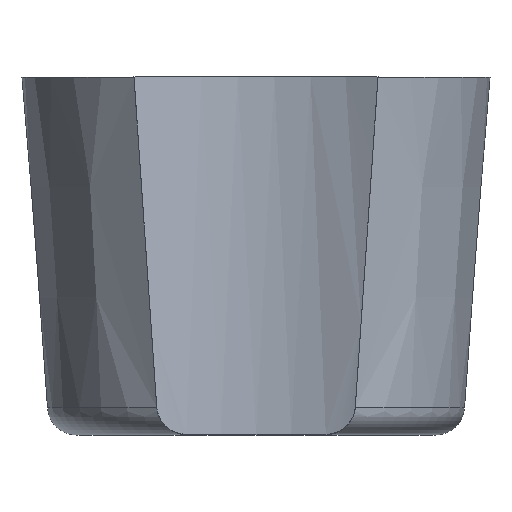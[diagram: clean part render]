
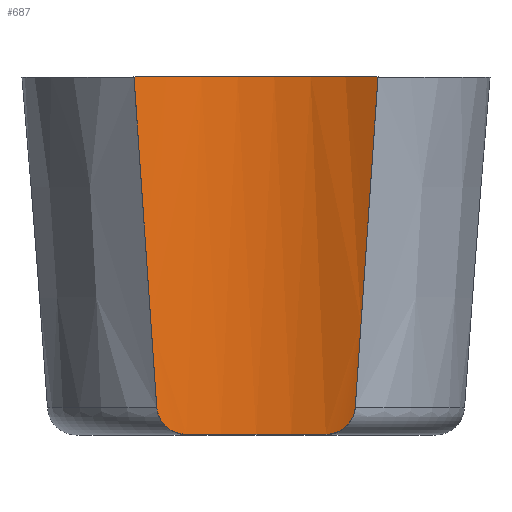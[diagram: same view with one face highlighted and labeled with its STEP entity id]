
A CAD part, top view. The second image highlights one B-rep face of the part: STEP entity #687.
In plain terms, the highlighted cylindrical face has radius 39 mm (diameter 78 mm), a partial arc.
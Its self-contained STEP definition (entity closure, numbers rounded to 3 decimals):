
#15=CYLINDRICAL_SURFACE('',#748,39.);
#18=ELLIPSE('',#734,567.572,39.);
#19=ELLIPSE('',#749,567.572,39.);
#25=CIRCLE('',#724,39.);
#27=CIRCLE('',#728,39.);
#40=B_SPLINE_CURVE_WITH_KNOTS('',3,(#1267,#1268,#1269,#1270,#1271,#1272,
#1273,#1274,#1275,#1276),.UNSPECIFIED.,.F.,.F.,(4,2,2,2,4),(2.313,
2.515,2.717,2.905,3.06),
 .UNSPECIFIED.);
#41=B_SPLINE_CURVE_WITH_KNOTS('',3,(#1279,#1280,#1281,#1282,#1283,#1284,
#1285,#1286,#1287,#1288),.UNSPECIFIED.,.F.,.F.,(4,2,2,2,4),(1.581,
1.736,1.924,2.126,2.328),
 .UNSPECIFIED.);
#86=FACE_OUTER_BOUND('',#133,.T.);
#133=EDGE_LOOP('',(#588,#589,#590,#591,#592,#593));
#301=VERTEX_POINT('',#1010);
#302=VERTEX_POINT('',#1012);
#307=VERTEX_POINT('',#1036);
#308=VERTEX_POINT('',#1037);
#332=VERTEX_POINT('',#1155);
#340=VERTEX_POINT('',#1266);
#373=EDGE_CURVE('',#302,#301,#25,.T.);
#379=EDGE_CURVE('',#307,#308,#27,.T.);
#409=EDGE_CURVE('',#307,#332,#18,.T.);
#426=EDGE_CURVE('',#301,#340,#40,.T.);
#428=EDGE_CURVE('',#332,#302,#41,.T.);
#429=EDGE_CURVE('',#340,#308,#19,.T.);
#588=ORIENTED_EDGE('',*,*,#379,.T.);
#589=ORIENTED_EDGE('',*,*,#429,.F.);
#590=ORIENTED_EDGE('',*,*,#426,.F.);
#591=ORIENTED_EDGE('',*,*,#373,.F.);
#592=ORIENTED_EDGE('',*,*,#428,.F.);
#593=ORIENTED_EDGE('',*,*,#409,.F.);
#687=ADVANCED_FACE('',(#86),#15,.F.);
#724=AXIS2_PLACEMENT_3D('',#1014,#813,#814);
#728=AXIS2_PLACEMENT_3D('',#1038,#821,#822);
#734=AXIS2_PLACEMENT_3D('',#1156,#856,#857);
#748=AXIS2_PLACEMENT_3D('',#1289,#899,#900);
#749=AXIS2_PLACEMENT_3D('',#1290,#901,#902);
#813=DIRECTION('center_axis',(0.,1.,0.));
#814=DIRECTION('ref_axis',(-1.,0.,0.));
#821=DIRECTION('center_axis',(0.,1.,0.));
#822=DIRECTION('ref_axis',(-1.,0.,0.));
#856=DIRECTION('center_axis',(-0.998,0.069,0.));
#857=DIRECTION('ref_axis',(-0.069,-0.998,0.));
#899=DIRECTION('center_axis',(0.,-1.,0.));
#900=DIRECTION('ref_axis',(-1.,0.,0.));
#901=DIRECTION('center_axis',(0.998,0.069,0.));
#902=DIRECTION('ref_axis',(-0.069,0.998,0.));
#1010=CARTESIAN_POINT('',(14.311,34.459,110.834));
#1012=CARTESIAN_POINT('',(37.95,34.459,110.834));
#1014=CARTESIAN_POINT('Origin',(26.131,34.459,148.));
#1036=CARTESIAN_POINT('',(46.787,95.,114.92));
#1037=CARTESIAN_POINT('',(5.474,95.,114.92));
#1038=CARTESIAN_POINT('Origin',(26.131,95.,148.));
#1155=CARTESIAN_POINT('',(42.938,39.115,112.808));
#1156=CARTESIAN_POINT('Origin',(26.131,-204.911,148.));
#1266=CARTESIAN_POINT('',(9.323,39.115,112.808));
#1267=CARTESIAN_POINT('Ctrl Pts',(14.311,34.459,110.834));
#1268=CARTESIAN_POINT('Ctrl Pts',(13.67,34.459,111.038));
#1269=CARTESIAN_POINT('Ctrl Pts',(12.991,34.589,111.274));
#1270=CARTESIAN_POINT('Ctrl Pts',(11.744,35.115,111.744));
#1271=CARTESIAN_POINT('Ctrl Pts',(11.177,35.51,111.978));
#1272=CARTESIAN_POINT('Ctrl Pts',(10.307,36.404,112.351));
#1273=CARTESIAN_POINT('Ctrl Pts',(9.935,36.952,112.521));
#1274=CARTESIAN_POINT('Ctrl Pts',(9.482,38.056,112.731));
#1275=CARTESIAN_POINT('Ctrl Pts',(9.359,38.592,112.79));
#1276=CARTESIAN_POINT('Ctrl Pts',(9.323,39.115,112.808));
#1279=CARTESIAN_POINT('Ctrl Pts',(42.938,39.115,112.808));
#1280=CARTESIAN_POINT('Ctrl Pts',(42.902,38.592,112.79));
#1281=CARTESIAN_POINT('Ctrl Pts',(42.779,38.056,112.731));
#1282=CARTESIAN_POINT('Ctrl Pts',(42.326,36.952,112.521));
#1283=CARTESIAN_POINT('Ctrl Pts',(41.954,36.404,112.351));
#1284=CARTESIAN_POINT('Ctrl Pts',(41.085,35.51,111.978));
#1285=CARTESIAN_POINT('Ctrl Pts',(40.517,35.115,111.744));
#1286=CARTESIAN_POINT('Ctrl Pts',(39.27,34.589,111.274));
#1287=CARTESIAN_POINT('Ctrl Pts',(38.591,34.459,111.038));
#1288=CARTESIAN_POINT('Ctrl Pts',(37.95,34.459,110.834));
#1289=CARTESIAN_POINT('Origin',(26.131,100.,148.));
#1290=CARTESIAN_POINT('Origin',(26.131,-204.911,148.));
